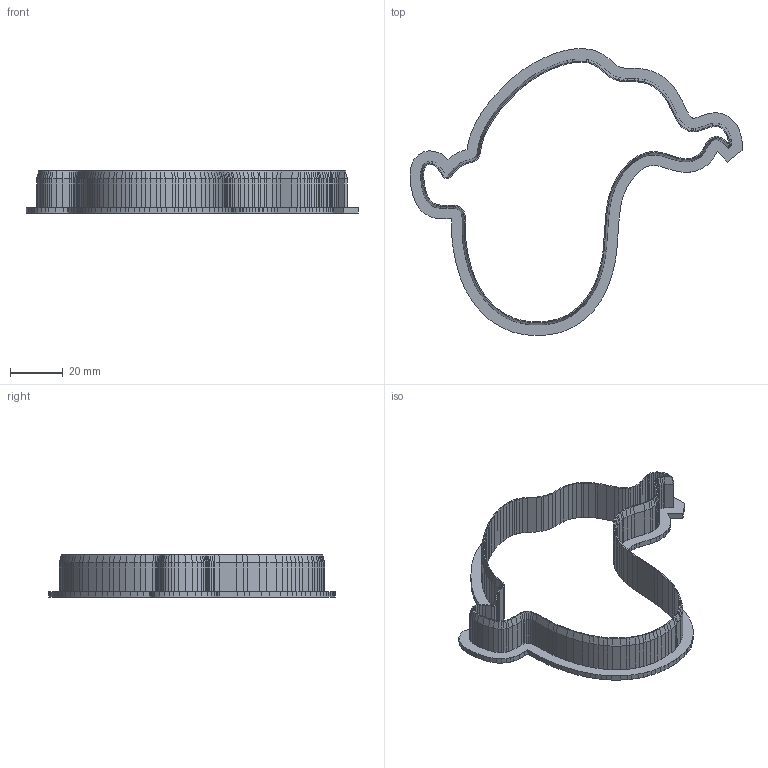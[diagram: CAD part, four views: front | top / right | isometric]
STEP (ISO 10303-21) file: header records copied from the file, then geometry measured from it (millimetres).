
FILE_DESCRIPTION(('Open CASCADE Model'),'2;1');
FILE_NAME('Open CASCADE Shape Model','2026-10-27T22:20:44',('Author'),( 'Open CASCADE'),'Open CASCADE STEP processor 7.9','Open CASCADE 7.9' ,'Unknown');
FILE_SCHEMA(('AUTOMOTIVE_DESIGN { 1 0 10303 214 1 1 1 1 }'));
Products named in the file (1): Open CASCADE STEP translator 7.9 8
Bounding box: 126.4 x 109.18 x 16 mm (x, y, z)
Volume: 9573.2 mm3; surface area: 15316.6 mm2
Topology: 1 solids, 1 shells, 782 faces, 2136 edges, 1357 vertices
Faces by surface type: plane 581, bspline 201
Entity records: 50380 total; most frequent: CARTESIAN_POINT 10485, DIRECTION 6238, LINE 5074, VECTOR 5074, ORIENTED_EDGE 4272, PCURVE 4272, DEFINITIONAL_REPRESENTATION 4272, EDGE_CURVE 2136
